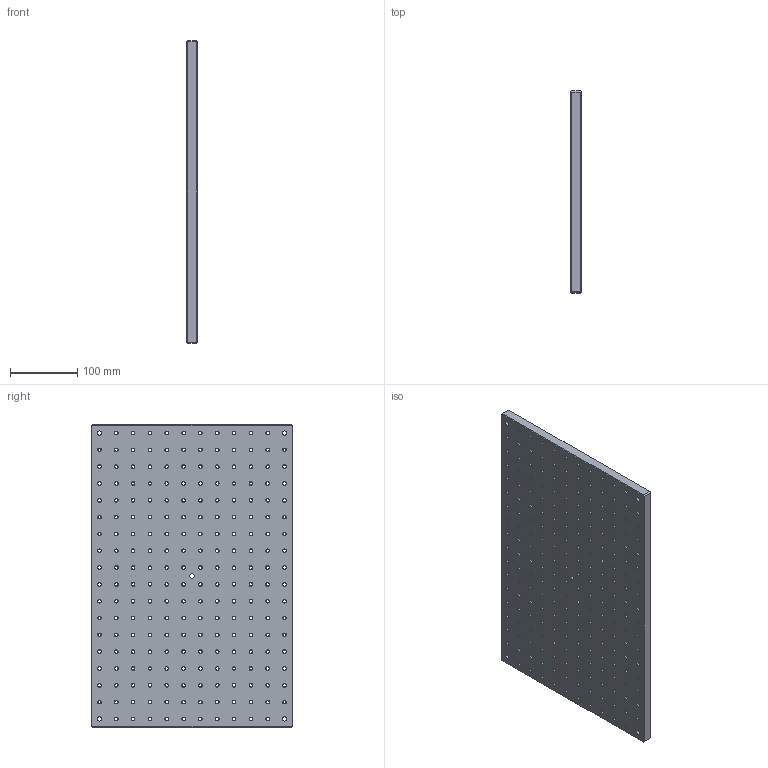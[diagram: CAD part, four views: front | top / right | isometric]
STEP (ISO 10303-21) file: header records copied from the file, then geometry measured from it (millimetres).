
FILE_DESCRIPTION(/* description */ (''),/* implementation_level */ '2;1');
FILE_NAME(/* name */ 'U:\KONSTRUKTORIAI\DOKUMENTACIJA\1\1B-ALE\1B-ALE-30-45-015\step\1B-ALE-30-45-015.stp',/* time_stamp */ '2016-06-15T08:07:43+03:00',/* author */ ('dsgn31'),/* organization */ (''),/* preprocessor_version */ 'ST-DEVELOPER v15.2',/* originating_system */ 'Autodesk Inventor 2014',/* authorisation */ '');
FILE_SCHEMA (('AUTOMOTIVE_DESIGN { 1 0 10303 214 3 1 1 }'));
Length unit declared in the file: millimetre
Products named in the file (1): 1B-ALE-30-45-015.01
Bounding box: 15 x 300 x 450 mm (x, y, z)
Volume: 1957740.5 mm3; surface area: 332401.9 mm2
Topology: 1 solids, 1 shells, 669 faces, 1766 edges, 1104 vertices
Faces by surface type: cone 424, cylinder 222, plane 23
Full cylindrical faces by diameter (mm): 4.917 x212, 6.5 x5, 11 x5
Entity records: 16559 total; most frequent: DIRECTION 3116, CARTESIAN_POINT 2470, ORIENTED_EDGE 1816, EDGE_LOOP 1754, AXIS2_PLACEMENT_3D 1538, FACE_BOUND 1087, EDGE_CURVE 908, VERTEX_POINT 892
